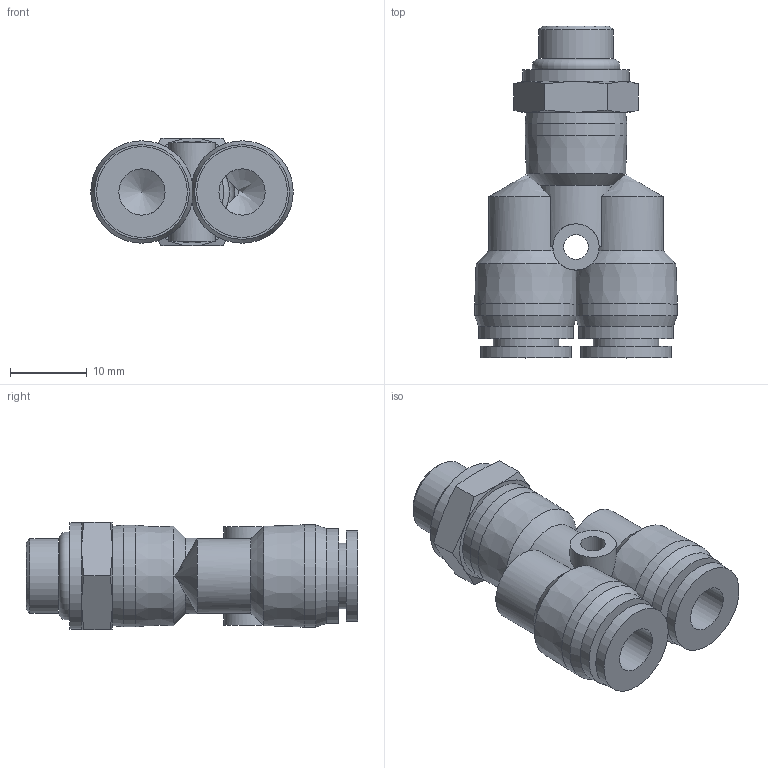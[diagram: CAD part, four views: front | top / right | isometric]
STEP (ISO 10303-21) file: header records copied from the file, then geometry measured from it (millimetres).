
FILE_DESCRIPTION(/* description */ (''),/* implementation_level */ '2;1');
FILE_NAME(/* name */ 'S:\_Tecnico\ArchivioUT\_Disegni3D ingombri\DISEGNI 3D per ingombri\RP\RP 74\RP741806.stp',/* time_stamp */ '2019-09-05T15:22:41+02:00',/* author */ ('ufficiotecnico3'),/* organization */ (''),/* preprocessor_version */ 'ST-DEVELOPER v18',/* originating_system */ 'Autodesk Inventor 2020',/* authorisation */ '');
FILE_SCHEMA (('AUTOMOTIVE_DESIGN { 1 0 10303 214 3 1 1 }'));
Length unit declared in the file: millimetre
Products named in the file (1): RP741806
Bounding box: 26.3 x 43.1 x 14 mm (x, y, z)
Volume: 5639.9 mm3; surface area: 4598 mm2
Topology: 1 solids, 1 shells, 71 faces, 196 edges, 130 vertices
Faces by surface type: cylinder 25, cone 23, plane 22, torus 1
Full cylindrical faces by diameter (mm): 3.2 x1, 4.5 x1, 5.432 x1, 5.9 x1, 6 x4, 8.3 x1, 8.5 x2, 9.728 x1, 11.8 x2, 12.3 x2, 13.2 x1, 13.8 x1
Entity records: 2655 total; most frequent: CARTESIAN_POINT 822, ORIENTED_EDGE 384, DIRECTION 376, EDGE_CURVE 192, AXIS2_PLACEMENT_3D 164, VERTEX_POINT 130, CIRCLE 92, EDGE_LOOP 84
